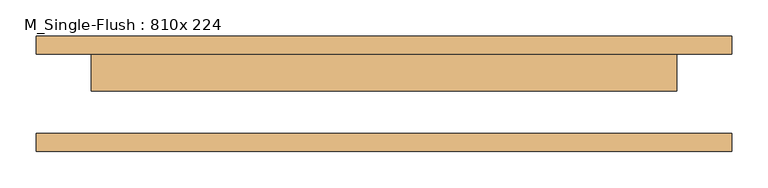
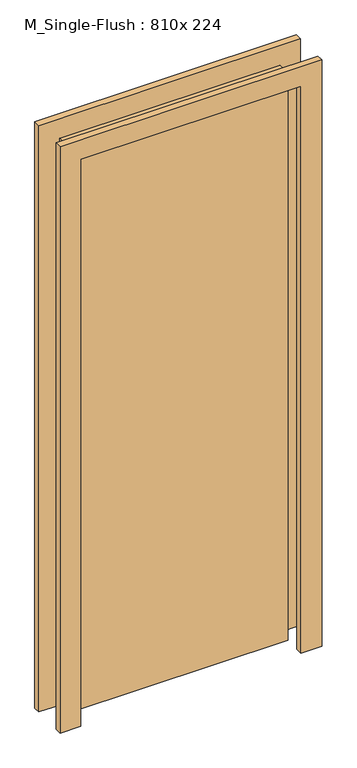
"""IFC4 building model written with IfcOpenShell, lengths in millimetres: door geometry, M_Single-Flush : 810x 224."""

from ifc_helpers import new_model, si_unit, frame, origin, origin_with_axes, place, context, project, spatial, polyline, outline, extrude, source, transform, mapped, element, save


def m_single_flush_810x_224_a3dcca69(model_context):
    return source(origin(), model_context, "Body", "SweptSolid", [
        extrude(outline(polyline([(2276.0, -481.0), (0.0, -481.0), (0.0, -405.0), (2200.0, -405.0), (2200.0, 405.0), (0.0, 405.0), (0.0, 481.0), (2276.0, 481.0), (2276.0, -481.0)])), frame((0.0, 55.0, 0.0), z_axis=(0.0, 1.0, 0.0), x_axis=(0.0, 0.0, 1.0)), (0.0, 0.0, 1.0), 25.0),
        extrude(outline(polyline([(2276.0, 481.0), (2276.0, -481.0), (0.0, -481.0), (0.0, -405.0), (2200.0, -405.0), (2200.0, 405.0), (0.0, 405.0), (0.0, 481.0), (2276.0, 481.0)])), frame((0.0, -80.0, 0.0), z_axis=(0.0, 1.0, 0.0), x_axis=(0.0, 0.0, 1.0)), (0.0, 0.0, 1.0), 25.0),
        extrude(outline(polyline([(405.0, 4.0), (-405.0, 4.0), (-405.0, 55.0), (405.0, 55.0), (405.0, 4.0)])), origin_with_axes(), (0.0, 0.0, 1.0), 2200.0),
    ])


if __name__ == "__main__":
    model = new_model("IFC4")
    model_context = context("Model", 3, world=origin())
    ifc_project = project(units=[si_unit("LENGTHUNIT", "METRE", prefix="MILLI")], contexts=[model_context])
    site = spatial("IfcSite", under=ifc_project)
    building = spatial("IfcBuilding", under=site)
    placement = place(None, origin())
    m_single_flush_810x_224_shape = m_single_flush_810x_224_a3dcca69(model_context)
    element("IfcDoor", 1, ObjectType="M_Single-Flush : 810x 224", at=placement, inside=building, context=model_context, shape_type="MappedRepresentation", body=[
        mapped(m_single_flush_810x_224_shape, transform((0.0, 0.0, 0.0), x_axis=(1.0, 0.0, 0.0), y_axis=(0.0, 1.0, 0.0), z_axis=(0.0, 0.0, 1.0))),
    ])
    save(model, "model.ifc")
